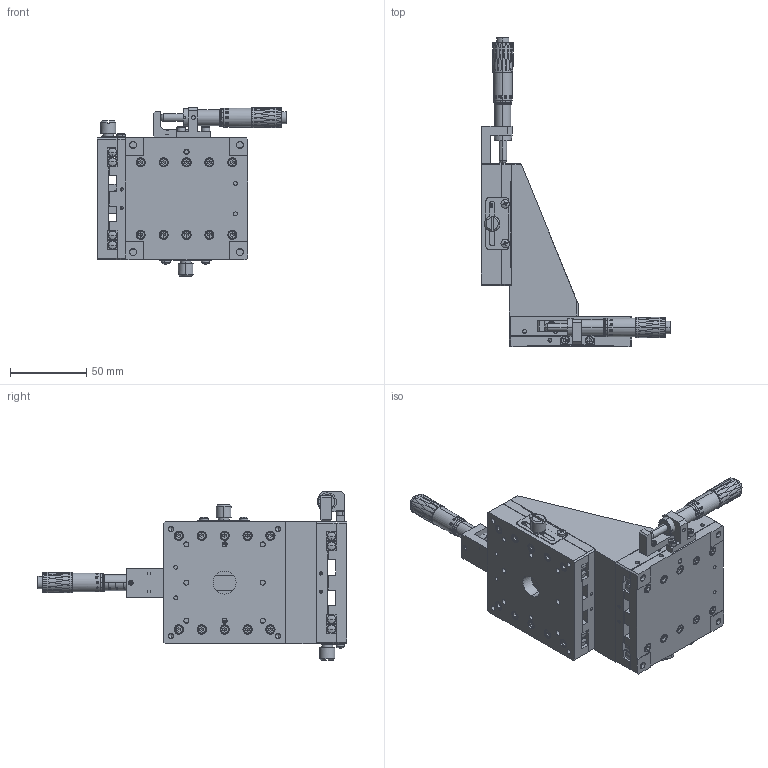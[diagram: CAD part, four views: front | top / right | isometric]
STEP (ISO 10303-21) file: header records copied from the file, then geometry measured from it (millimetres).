
FILE_DESCRIPTION (( 'STEP AP203' ), '1' );
FILE_NAME ('BVE80.STEP', '2023-12-05T00:15:53', ( 'China' ), ( 'Microsoft' ), 'SwSTEP 2.0', 'SolidWorks 2024', '' );
FILE_SCHEMA (( 'CONFIG_CONTROL_DESIGN' ));
Products named in the file (1): BVE80
Bounding box: 124.2 x 202.7 x 110.65 mm (x, y, z)
Volume: 341822.5 mm3; surface area: 160696.5 mm2
Topology: 83 solids, 83 shells, 4556 faces, 11428 edges, 7199 vertices
Faces by surface type: plane 1443, cylinder 1147, bspline 1124, cone 690, torus 140, sphere 12
Entity records: 219807 total; most frequent: CARTESIAN_POINT 120360, ORIENTED_EDGE 22436, DIRECTION 17188, EDGE_CURVE 11218, VERTEX_POINT 7199, AXIS2_PLACEMENT_3D 6625, EDGE_LOOP 5263, FACE_OUTER_BOUND 4556
